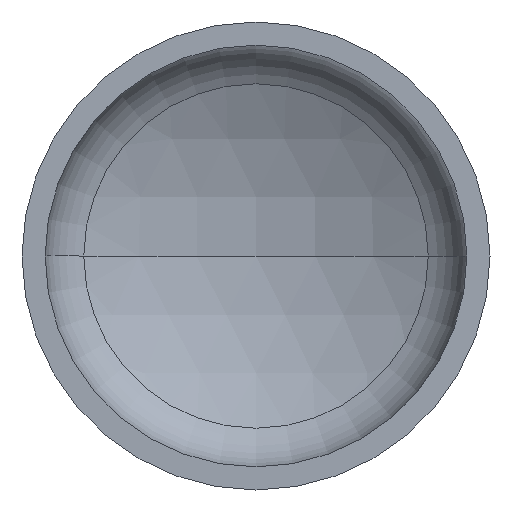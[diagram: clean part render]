
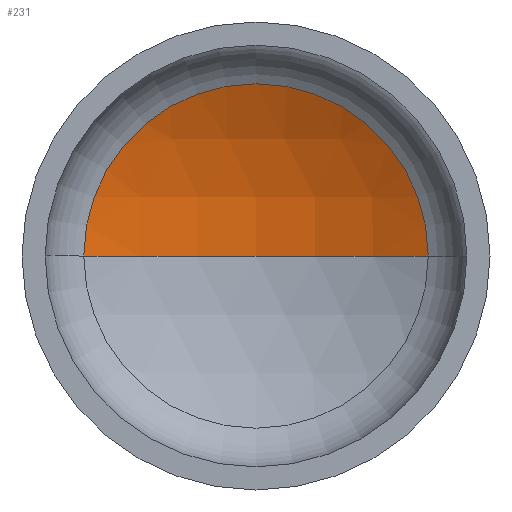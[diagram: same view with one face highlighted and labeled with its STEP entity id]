
A CAD part, front view. The second image highlights one B-rep face of the part: STEP entity #231.
In plain terms, the highlighted spherical face has radius 1360 mm.
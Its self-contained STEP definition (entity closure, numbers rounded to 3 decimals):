
#11 = DIRECTION ( 'NONE',  ( -1., 0., 0. ) ) ;
#12 = AXIS2_PLACEMENT_3D ( 'NONE', #73, #50, #398 ) ;
#15 = DIRECTION ( 'NONE',  ( 0., 0., -1. ) ) ;
#21 = EDGE_LOOP ( 'NONE', ( #155, #104, #63 ) ) ;
#23 = CARTESIAN_POINT ( 'NONE',  ( 0., -876.711, 0. ) ) ;
#29 = AXIS2_PLACEMENT_3D ( 'NONE', #285, #283, #272 ) ;
#33 = VERTEX_POINT ( 'NONE', #264 ) ;
#36 = AXIS2_PLACEMENT_3D ( 'NONE', #23, #15, #11 ) ;
#43 = AXIS2_PLACEMENT_3D ( 'NONE', #309, #238, #236 ) ;
#50 = DIRECTION ( 'NONE',  ( 0., 0., -1. ) ) ;
#51 = CIRCLE ( 'NONE', #29, 1360. ) ;
#63 = ORIENTED_EDGE ( 'NONE', *, *, #88, .T. ) ;
#73 = CARTESIAN_POINT ( 'NONE',  ( 0., -876.711, 0. ) ) ;
#88 = EDGE_CURVE ( 'NONE', #124, #150, #195, .T. ) ;
#100 = EDGE_CURVE ( 'NONE', #33, #124, #374, .T. ) ;
#104 = ORIENTED_EDGE ( 'NONE', *, *, #100, .T. ) ;
#124 = VERTEX_POINT ( 'NONE', #219 ) ;
#134 = EDGE_CURVE ( 'NONE', #33, #150, #51, .T. ) ;
#150 = VERTEX_POINT ( 'NONE', #215 ) ;
#155 = ORIENTED_EDGE ( 'NONE', *, *, #134, .F. ) ;
#195 = CIRCLE ( 'NONE', #43, 625.6 ) ;
#215 = CARTESIAN_POINT ( 'NONE',  ( -625.6, 330.859, 0. ) ) ;
#219 = CARTESIAN_POINT ( 'NONE',  ( 625.6, 330.859, 0. ) ) ;
#231 = ADVANCED_FACE ( 'NONE', ( #292 ), #239, .F. ) ;
#236 = DIRECTION ( 'NONE',  ( 1., 0., 0. ) ) ;
#238 = DIRECTION ( 'NONE',  ( 0., -1., 0. ) ) ;
#239 = SPHERICAL_SURFACE ( 'NONE', #12, 1360. ) ;
#264 = CARTESIAN_POINT ( 'NONE',  ( 0., 483.289, 0. ) ) ;
#272 = DIRECTION ( 'NONE',  ( 1., 0., 0. ) ) ;
#283 = DIRECTION ( 'NONE',  ( 0., 0., 1. ) ) ;
#285 = CARTESIAN_POINT ( 'NONE',  ( 0., -876.711, 0. ) ) ;
#292 = FACE_OUTER_BOUND ( 'NONE', #21, .T. ) ;
#309 = CARTESIAN_POINT ( 'NONE',  ( 0., 330.859, 0. ) ) ;
#374 = CIRCLE ( 'NONE', #36, 1360. ) ;
#398 = DIRECTION ( 'NONE',  ( -1., 0., 0. ) ) ;
